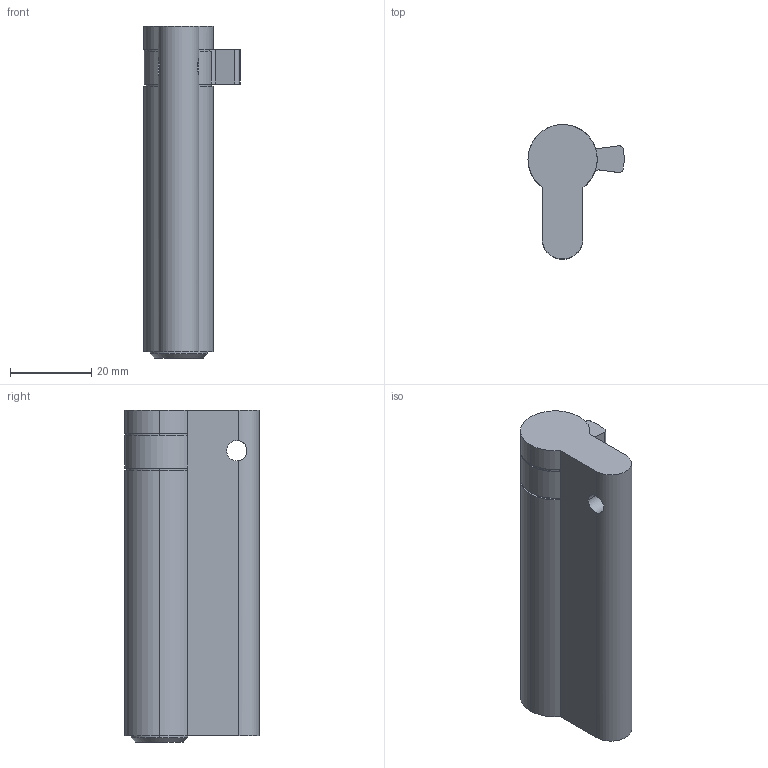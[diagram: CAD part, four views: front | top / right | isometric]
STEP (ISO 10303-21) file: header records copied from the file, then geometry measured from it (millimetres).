
FILE_DESCRIPTION (( 'STEP AP214' ), '1' );
FILE_NAME ('TPL-H-EU-514-L 29Oct2024.STEP', '2024-10-29T22:20:07', ( '' ), ( '' ), 'SwSTEP 2.0', 'SolidWorks 2023', '' );
FILE_SCHEMA (( 'AUTOMOTIVE_DESIGN' ));
Length unit declared in the file: millimetre
Products named in the file (1): TPL-H-EU-514-L 29Oct2024
Bounding box: 23.58 x 33 x 81.5 mm (x, y, z)
Volume: 30523.4 mm3; surface area: 8323.1 mm2
Topology: 1 solids, 1 shells, 45 faces, 124 edges, 78 vertices
Faces by surface type: cylinder 26, plane 16, cone 3
Entity records: 1540 total; most frequent: CARTESIAN_POINT 318, DIRECTION 271, ORIENTED_EDGE 248, EDGE_CURVE 124, AXIS2_PLACEMENT_3D 107, VERTEX_POINT 78, CIRCLE 61, LINE 57
